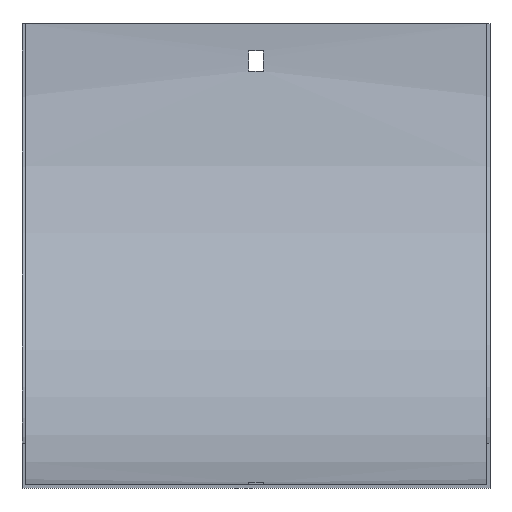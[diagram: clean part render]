
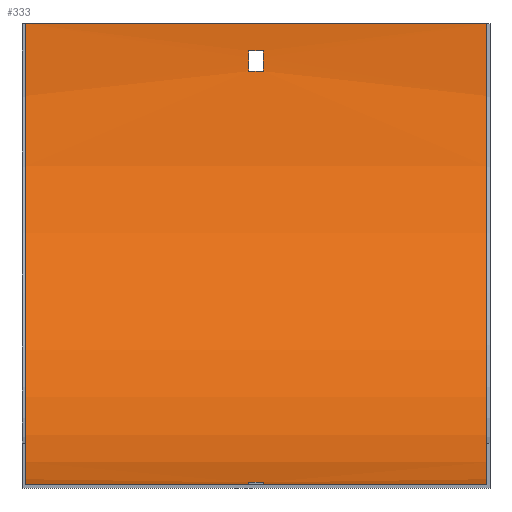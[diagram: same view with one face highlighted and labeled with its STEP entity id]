
A CAD part, front view. The second image highlights one B-rep face of the part: STEP entity #333.
In plain terms, the highlighted cylindrical face has radius 204 mm (diameter 408 mm), a partial arc.
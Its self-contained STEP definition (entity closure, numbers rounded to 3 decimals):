
#10 = CARTESIAN_POINT ( 'NONE',  ( 103.5, -2.584, -21. ) ) ;
#28 = ORIENTED_EDGE ( 'NONE', *, *, #164, .T. ) ;
#30 = VERTEX_POINT ( 'NONE', #491 ) ;
#32 = VERTEX_POINT ( 'NONE', #297 ) ;
#33 = LINE ( 'NONE', #176, #340 ) ;
#41 = CARTESIAN_POINT ( 'NONE',  ( -102., -205.5, 0. ) ) ;
#48 = CARTESIAN_POINT ( 'NONE',  ( -3.25, -2.584, -21. ) ) ;
#50 = LINE ( 'NONE', #272, #58 ) ;
#51 = AXIS2_PLACEMENT_3D ( 'NONE', #274, #146, #188 ) ;
#52 = VECTOR ( 'NONE', #320, 1000. ) ;
#54 = VERTEX_POINT ( 'NONE', #488 ) ;
#58 = VECTOR ( 'NONE', #372, 1000. ) ;
#61 = ORIENTED_EDGE ( 'NONE', *, *, #210, .F. ) ;
#71 = DIRECTION ( 'NONE',  ( 0., 0., 1. ) ) ;
#74 = AXIS2_PLACEMENT_3D ( 'NONE', #387, #301, #490 ) ;
#79 = CARTESIAN_POINT ( 'NONE',  ( 3.25, -205.5, 0. ) ) ;
#90 = EDGE_CURVE ( 'NONE', #273, #303, #527, .T. ) ;
#95 = CYLINDRICAL_SURFACE ( 'NONE', #139, 204. ) ;
#101 = ORIENTED_EDGE ( 'NONE', *, *, #262, .F. ) ;
#121 = CIRCLE ( 'NONE', #178, 204. ) ;
#122 = LINE ( 'NONE', #551, #52 ) ;
#132 = FACE_BOUND ( 'NONE', #501, .T. ) ;
#133 = CARTESIAN_POINT ( 'NONE',  ( 3.25, -184.5, -202.916 ) ) ;
#139 = AXIS2_PLACEMENT_3D ( 'NONE', #511, #278, #471 ) ;
#144 = EDGE_CURVE ( 'NONE', #238, #32, #33, .T. ) ;
#145 = ORIENTED_EDGE ( 'NONE', *, *, #552, .T. ) ;
#146 = DIRECTION ( 'NONE',  ( -1., 0., 0. ) ) ;
#148 = CARTESIAN_POINT ( 'NONE',  ( 3.25, -193.5, -203.647 ) ) ;
#164 = EDGE_CURVE ( 'NONE', #183, #543, #122, .T. ) ;
#167 = CIRCLE ( 'NONE', #600, 204. ) ;
#176 = CARTESIAN_POINT ( 'NONE',  ( 102., -1.5, 0. ) ) ;
#178 = AXIS2_PLACEMENT_3D ( 'NONE', #520, #573, #284 ) ;
#181 = LINE ( 'NONE', #601, #228 ) ;
#183 = VERTEX_POINT ( 'NONE', #269 ) ;
#188 = DIRECTION ( 'NONE',  ( 0., 0., 1. ) ) ;
#191 = ORIENTED_EDGE ( 'NONE', *, *, #317, .F. ) ;
#196 = DIRECTION ( 'NONE',  ( 1., 0., 0. ) ) ;
#199 = CARTESIAN_POINT ( 'NONE',  ( -102., -205.5, -204. ) ) ;
#210 = EDGE_CURVE ( 'NONE', #303, #532, #364, .T. ) ;
#212 = ORIENTED_EDGE ( 'NONE', *, *, #599, .F. ) ;
#228 = VECTOR ( 'NONE', #369, 1000. ) ;
#238 = VERTEX_POINT ( 'NONE', #314 ) ;
#262 = EDGE_CURVE ( 'NONE', #430, #32, #477, .T. ) ;
#264 = DIRECTION ( 'NONE',  ( 0., 0., -1. ) ) ;
#269 = CARTESIAN_POINT ( 'NONE',  ( -3.25, -184.5, -202.916 ) ) ;
#272 = CARTESIAN_POINT ( 'NONE',  ( 103.5, -193.5, -203.647 ) ) ;
#273 = VERTEX_POINT ( 'NONE', #48 ) ;
#274 = CARTESIAN_POINT ( 'NONE',  ( -3.25, -205.5, 0. ) ) ;
#275 = EDGE_CURVE ( 'NONE', #54, #273, #465, .T. ) ;
#278 = DIRECTION ( 'NONE',  ( -1., 0., 0. ) ) ;
#279 = CARTESIAN_POINT ( 'NONE',  ( 3.25, -2.584, -21. ) ) ;
#284 = DIRECTION ( 'NONE',  ( 0., 0., 1. ) ) ;
#287 = VECTOR ( 'NONE', #196, 1000. ) ;
#295 = ORIENTED_EDGE ( 'NONE', *, *, #144, .T. ) ;
#297 = CARTESIAN_POINT ( 'NONE',  ( -102., -1.5, 0. ) ) ;
#301 = DIRECTION ( 'NONE',  ( 1., 0., 0. ) ) ;
#303 = VERTEX_POINT ( 'NONE', #279 ) ;
#304 = DIRECTION ( 'NONE',  ( -1., 0., 0. ) ) ;
#314 = CARTESIAN_POINT ( 'NONE',  ( 102., -1.5, 0. ) ) ;
#317 = EDGE_CURVE ( 'NONE', #532, #54, #181, .T. ) ;
#320 = DIRECTION ( 'NONE',  ( 1., 0., 0. ) ) ;
#321 = DIRECTION ( 'NONE',  ( -1., 0., 0. ) ) ;
#333 = ADVANCED_FACE ( 'NONE', ( #365, #423, #132 ), #95, .F. ) ;
#340 = VECTOR ( 'NONE', #361, 1000. ) ;
#355 = ORIENTED_EDGE ( 'NONE', *, *, #506, .T. ) ;
#361 = DIRECTION ( 'NONE',  ( -1., 0., 0. ) ) ;
#364 = CIRCLE ( 'NONE', #442, 204. ) ;
#365 = FACE_BOUND ( 'NONE', #433, .T. ) ;
#369 = DIRECTION ( 'NONE',  ( -1., 0., 0. ) ) ;
#372 = DIRECTION ( 'NONE',  ( -1., 0., 0. ) ) ;
#376 = CARTESIAN_POINT ( 'NONE',  ( 3.25, -1.853, -12. ) ) ;
#386 = VERTEX_POINT ( 'NONE', #148 ) ;
#387 = CARTESIAN_POINT ( 'NONE',  ( -3.25, -205.5, 0. ) ) ;
#388 = CIRCLE ( 'NONE', #74, 204. ) ;
#411 = AXIS2_PLACEMENT_3D ( 'NONE', #41, #566, #508 ) ;
#423 = FACE_OUTER_BOUND ( 'NONE', #499, .T. ) ;
#430 = VERTEX_POINT ( 'NONE', #199 ) ;
#433 = EDGE_LOOP ( 'NONE', ( #525, #191, #61, #443 ) ) ;
#434 = CARTESIAN_POINT ( 'NONE',  ( -3.25, -193.5, -203.647 ) ) ;
#442 = AXIS2_PLACEMENT_3D ( 'NONE', #79, #549, #264 ) ;
#443 = ORIENTED_EDGE ( 'NONE', *, *, #90, .F. ) ;
#451 = EDGE_CURVE ( 'NONE', #458, #183, #388, .T. ) ;
#452 = EDGE_CURVE ( 'NONE', #30, #238, #121, .T. ) ;
#458 = VERTEX_POINT ( 'NONE', #434 ) ;
#464 = VECTOR ( 'NONE', #321, 1000. ) ;
#465 = CIRCLE ( 'NONE', #51, 204. ) ;
#471 = DIRECTION ( 'NONE',  ( 0., 0., 1. ) ) ;
#476 = LINE ( 'NONE', #561, #464 ) ;
#477 = CIRCLE ( 'NONE', #411, 204. ) ;
#488 = CARTESIAN_POINT ( 'NONE',  ( -3.25, -1.853, -12. ) ) ;
#490 = DIRECTION ( 'NONE',  ( 0., 0., -1. ) ) ;
#491 = CARTESIAN_POINT ( 'NONE',  ( 102., -205.5, -204. ) ) ;
#494 = CARTESIAN_POINT ( 'NONE',  ( 3.25, -205.5, 0. ) ) ;
#499 = EDGE_LOOP ( 'NONE', ( #101, #212, #583, #295 ) ) ;
#501 = EDGE_LOOP ( 'NONE', ( #145, #592, #28, #355 ) ) ;
#506 = EDGE_CURVE ( 'NONE', #543, #386, #167, .T. ) ;
#508 = DIRECTION ( 'NONE',  ( 0., 0., 1. ) ) ;
#511 = CARTESIAN_POINT ( 'NONE',  ( 103.5, -205.5, 0. ) ) ;
#520 = CARTESIAN_POINT ( 'NONE',  ( 102., -205.5, 0. ) ) ;
#525 = ORIENTED_EDGE ( 'NONE', *, *, #275, .F. ) ;
#527 = LINE ( 'NONE', #10, #287 ) ;
#532 = VERTEX_POINT ( 'NONE', #376 ) ;
#543 = VERTEX_POINT ( 'NONE', #133 ) ;
#549 = DIRECTION ( 'NONE',  ( 1., 0., 0. ) ) ;
#551 = CARTESIAN_POINT ( 'NONE',  ( 103.5, -184.5, -202.916 ) ) ;
#552 = EDGE_CURVE ( 'NONE', #386, #458, #50, .T. ) ;
#561 = CARTESIAN_POINT ( 'NONE',  ( 102., -205.5, -204. ) ) ;
#566 = DIRECTION ( 'NONE',  ( 1., 0., 0. ) ) ;
#573 = DIRECTION ( 'NONE',  ( 1., 0., 0. ) ) ;
#583 = ORIENTED_EDGE ( 'NONE', *, *, #452, .T. ) ;
#592 = ORIENTED_EDGE ( 'NONE', *, *, #451, .T. ) ;
#599 = EDGE_CURVE ( 'NONE', #30, #430, #476, .T. ) ;
#600 = AXIS2_PLACEMENT_3D ( 'NONE', #494, #304, #71 ) ;
#601 = CARTESIAN_POINT ( 'NONE',  ( 103.5, -1.853, -12. ) ) ;
